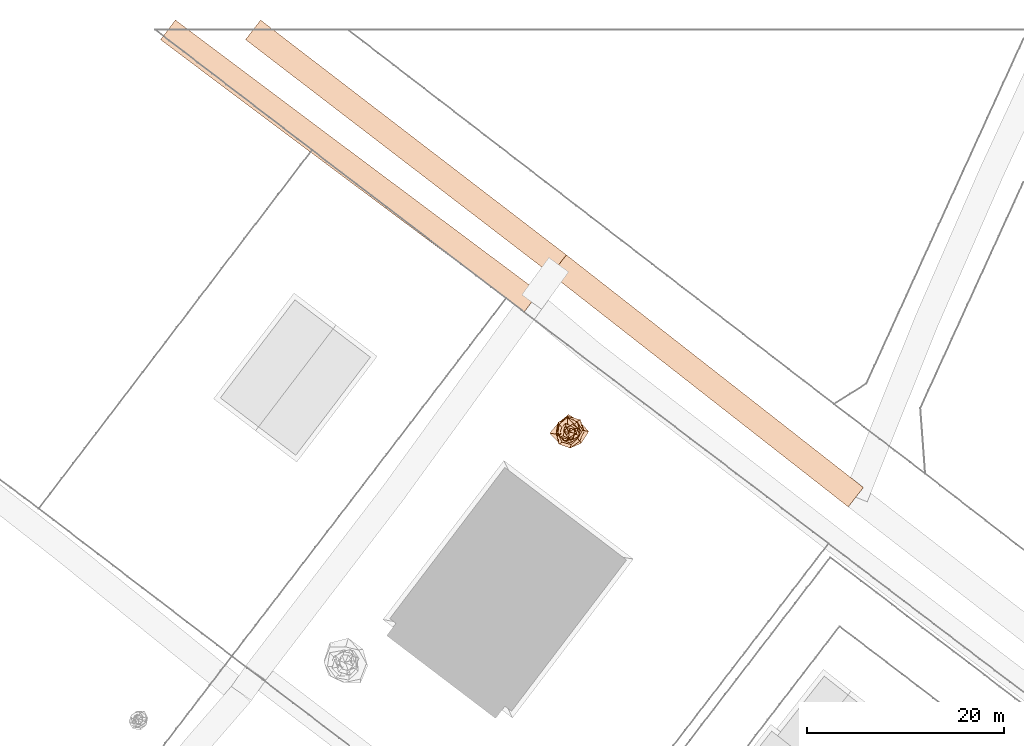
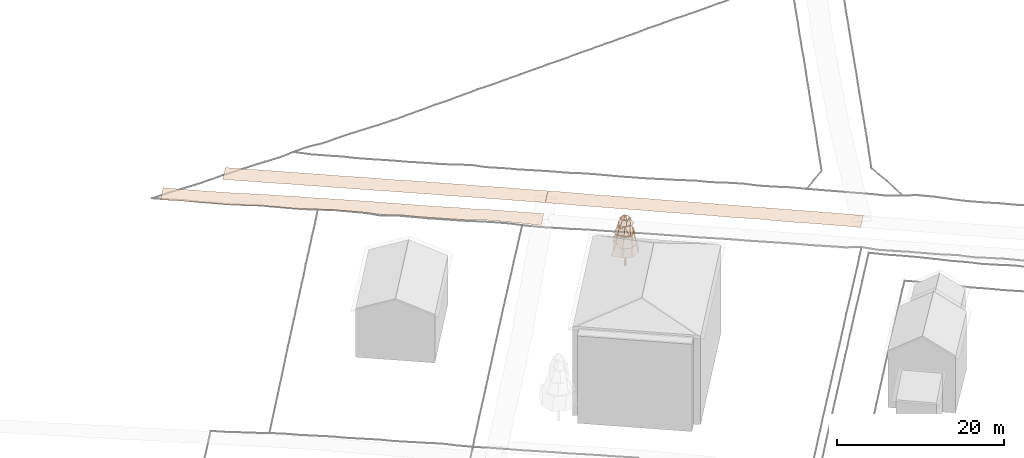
# Not in any storey, part 85 of 88: 4 geographic elements.
"""IFC4 model written with IfcOpenShell, lengths in metres."""

from ifc_helpers import new_model, si_unit, frame, origin_with_axes, place, context, subcontext, project, spatial, circle, extrude, faceted_brep, triangles, element, save


model = new_model("IFC4")

# Units and contexts
model_context = context("Model", 3, precision=1e-05, world=origin_with_axes())
body_context = subcontext(model_context, "Body", "Model", "MODEL_VIEW")
ifc_project = project(units=[si_unit("LENGTHUNIT", "METRE"), si_unit("AREAUNIT", "SQUARE_METRE"), si_unit("VOLUMEUNIT", "CUBIC_METRE"), si_unit("PLANEANGLEUNIT", "RADIAN")], contexts=[model_context])

# Sites
site_1_placement = place(None, origin_with_axes())
site_1 = spatial("IfcSite", under=ifc_project, at=site_1_placement, Name="CH907857693633", CompositionType="ELEMENT")
site_2_placement = place(None, origin_with_axes())
site_2 = spatial("IfcSite", under=site_1, at=site_2_placement, Name="Vegetation", CompositionType="ELEMENT")

# Geographic element
geographic_element_1_placement = place(None, frame((99.2710000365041, 189.19500338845, 8.87066650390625), z_axis=(0.0, 0.0, 1.0), x_axis=(1.0, 0.0, 0.0)))
element("IfcGeographicElement", 1, at=geographic_element_1_placement, inside=site_2, Name="Tree_einzelbaum", ObjectType="VEGETATION", PredefinedType="USERDEFINED", context=body_context, shape_type="Brep", body=[
    extrude(circle(Radius=0.15), origin_with_axes(), (0.0, 0.0, 1.0), 2.12445532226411),
    faceted_brep([(1.20939652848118, -1.1103342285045, 2.12445532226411), (0.0683971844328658, -1.60164918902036, 2.12445532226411), (-1.02150361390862, -1.1126405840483, 2.12445532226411), (-1.98497279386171, -0.084766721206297, 2.12445532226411), (-1.07976503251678, 0.991320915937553, 2.12445532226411), (-0.0771044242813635, 1.80554564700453, 2.12445532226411), (1.02901351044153, 1.12082050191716, 2.12445532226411), (1.96907565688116, 0.0840878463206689, 2.12445532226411), (1.3703106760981, 0.1968511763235, 3.73661023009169), (0.867407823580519, 1.15842809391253, 3.73661023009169), (-0.226442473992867, 1.57630015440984, 3.73661023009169), (-1.17817851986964, 0.882196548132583, 3.73661023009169), (-1.33827817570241, -0.192249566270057, 3.73661023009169), (-0.871082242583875, -1.16333530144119, 3.73661023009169), (0.187618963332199, -1.30604385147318, 3.73661023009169), (0.996576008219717, -0.746216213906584, 3.73661023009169), (1.96907565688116, 0.0840878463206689, 2.12445532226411), (1.02901351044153, 1.12082050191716, 2.12445532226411), (0.867407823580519, 1.15842809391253, 3.73661023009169), (1.3703106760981, 0.1968511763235, 3.73661023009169), (1.02901351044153, 1.12082050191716, 2.12445532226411), (-0.0771044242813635, 1.80554564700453, 2.12445532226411), (-0.226442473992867, 1.57630015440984, 3.73661023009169), (0.867407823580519, 1.15842809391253, 3.73661023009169), (-0.0771044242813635, 1.80554564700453, 2.12445532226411), (-1.07976503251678, 0.991320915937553, 2.12445532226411), (-1.17817851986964, 0.882196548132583, 3.73661023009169), (-0.226442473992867, 1.57630015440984, 3.73661023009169), (-1.07976503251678, 0.991320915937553, 2.12445532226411), (-1.98497279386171, -0.084766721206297, 2.12445532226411), (-1.33827817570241, -0.192249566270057, 3.73661023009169), (-1.17817851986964, 0.882196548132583, 3.73661023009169), (-1.98497279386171, -0.084766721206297, 2.12445532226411), (-1.02150361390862, -1.1126405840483, 2.12445532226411), (-0.871082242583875, -1.16333530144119, 3.73661023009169), (-1.33827817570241, -0.192249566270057, 3.73661023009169), (-1.02150361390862, -1.1126405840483, 2.12445532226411), (0.0683971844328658, -1.60164918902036, 2.12445532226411), (0.187618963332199, -1.30604385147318, 3.73661023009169), (-0.871082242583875, -1.16333530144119, 3.73661023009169), (0.0683971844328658, -1.60164918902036, 2.12445532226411), (1.20939652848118, -1.1103342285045, 2.12445532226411), (0.996576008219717, -0.746216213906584, 3.73661023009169), (0.187618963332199, -1.30604385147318, 3.73661023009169), (1.20939652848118, -1.1103342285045, 2.12445532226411), (1.96907565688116, 0.0840878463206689, 2.12445532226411), (1.3703106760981, 0.1968511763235, 3.73661023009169), (0.996576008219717, -0.746216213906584, 3.73661023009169)], [[[0, 1, 2, 3, 4, 5, 6, 7]], [[8, 9, 10, 11, 12, 13, 14, 15]], [[16, 17, 18, 19]], [[20, 21, 22, 23]], [[24, 25, 26, 27]], [[28, 29, 30, 31]], [[32, 33, 34, 35]], [[36, 37, 38, 39]], [[40, 41, 42, 43]], [[44, 45, 46, 47]]]),
    faceted_brep([(1.0405083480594, -0.924965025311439, 3.49478699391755), (0.0934177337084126, -1.58910150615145, 3.49478699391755), (-1.06201358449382, -1.19467652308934, 3.49478699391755), (-1.29062140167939, -0.0758711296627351, 3.49478699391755), (-1.14049709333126, 1.01385051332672, 3.49478699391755), (-0.0931995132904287, 1.58538942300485, 3.49478699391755), (1.13559699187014, 1.27745170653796, 3.49478699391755), (1.5061827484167, 0.0885432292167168, 3.49478699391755), (1.34692107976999, 0.215595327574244, 4.96601408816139), (0.78833671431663, 1.08880138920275, 4.96601408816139), (-0.16616739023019, 1.03812250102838, 4.96601408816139), (-0.893071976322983, 0.646620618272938, 4.96601408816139), (-1.15900187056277, -0.18551598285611, 4.96601408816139), (-0.722172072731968, -0.997418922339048, 4.96601408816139), (0.199919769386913, -1.24898881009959, 4.96601408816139), (0.86368834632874, -0.625345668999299, 4.96601408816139), (1.5061827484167, 0.0885432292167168, 3.49478699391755), (1.13559699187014, 1.27745170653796, 3.49478699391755), (0.78833671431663, 1.08880138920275, 4.96601408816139), (1.34692107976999, 0.215595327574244, 4.96601408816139), (1.13559699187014, 1.27745170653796, 3.49478699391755), (-0.0931995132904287, 1.58538942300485, 3.49478699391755), (-0.16616739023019, 1.03812250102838, 4.96601408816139), (0.78833671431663, 1.08880138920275, 4.96601408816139), (-0.0931995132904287, 1.58538942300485, 3.49478699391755), (-1.14049709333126, 1.01385051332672, 3.49478699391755), (-0.893071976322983, 0.646620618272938, 4.96601408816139), (-0.16616739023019, 1.03812250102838, 4.96601408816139), (-1.14049709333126, 1.01385051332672, 3.49478699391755), (-1.29062140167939, -0.0758711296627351, 3.49478699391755), (-1.15900187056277, -0.18551598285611, 4.96601408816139), (-0.893071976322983, 0.646620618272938, 4.96601408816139), (-1.29062140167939, -0.0758711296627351, 3.49478699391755), (-1.06201358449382, -1.19467652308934, 3.49478699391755), (-0.722172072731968, -0.997418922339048, 4.96601408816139), (-1.15900187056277, -0.18551598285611, 4.96601408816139), (-1.06201358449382, -1.19467652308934, 3.49478699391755), (0.0934177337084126, -1.58910150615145, 3.49478699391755), (0.199919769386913, -1.24898881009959, 4.96601408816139), (-0.722172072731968, -0.997418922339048, 4.96601408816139), (0.0934177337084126, -1.58910150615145, 3.49478699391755), (1.0405083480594, -0.924965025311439, 3.49478699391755), (0.86368834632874, -0.625345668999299, 4.96601408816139), (0.199919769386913, -1.24898881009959, 4.96601408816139), (1.0405083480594, -0.924965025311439, 3.49478699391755), (1.5061827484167, 0.0885432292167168, 3.49478699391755), (1.34692107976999, 0.215595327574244, 4.96601408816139), (0.86368834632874, -0.625345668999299, 4.96601408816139)], [[[0, 1, 2, 3, 4, 5, 6, 7]], [[8, 9, 10, 11, 12, 13, 14, 15]], [[16, 17, 18, 19]], [[20, 21, 22, 23]], [[24, 25, 26, 27]], [[28, 29, 30, 31]], [[32, 33, 34, 35]], [[36, 37, 38, 39]], [[40, 41, 42, 43]], [[44, 45, 46, 47]]]),
    faceted_brep([(0.817410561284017, -0.628692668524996, 4.74533002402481), (0.144202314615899, -1.10499025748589, 4.74533002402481), (-0.636262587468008, -0.827252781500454, 4.74533002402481), (-1.15211027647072, -0.150351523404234, 4.74533002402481), (-1.03933052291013, 0.799377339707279, 4.74533002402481), (-0.196087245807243, 1.50257294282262, 4.74533002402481), (0.822595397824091, 1.06951806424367, 4.74533002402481), (1.14867639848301, 0.149903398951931, 4.74533002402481), (1.01942656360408, 0.238442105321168, 6.24845616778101), (0.509289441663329, 0.820271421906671, 6.24845616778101), (-0.20481122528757, 0.875642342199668, 6.24845616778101), (-0.684000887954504, 0.424681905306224, 6.24845616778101), (-0.906390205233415, -0.212003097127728, 6.24845616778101), (-0.52099935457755, -0.839131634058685, 6.24845616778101), (0.183180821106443, -0.783164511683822, 6.24845616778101), (0.676571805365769, -0.420069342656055, 6.24845616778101), (1.14867639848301, 0.149903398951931, 4.74533002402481), (0.822595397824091, 1.06951806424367, 4.74533002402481), (0.509289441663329, 0.820271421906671, 6.24845616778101), (1.01942656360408, 0.238442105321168, 6.24845616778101), (0.822595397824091, 1.06951806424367, 4.74533002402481), (-0.196087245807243, 1.50257294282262, 4.74533002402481), (-0.20481122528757, 0.875642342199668, 6.24845616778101), (0.509289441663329, 0.820271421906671, 6.24845616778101), (-0.196087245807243, 1.50257294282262, 4.74533002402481), (-1.03933052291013, 0.799377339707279, 4.74533002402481), (-0.684000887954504, 0.424681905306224, 6.24845616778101), (-0.20481122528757, 0.875642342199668, 6.24845616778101), (-1.03933052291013, 0.799377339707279, 4.74533002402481), (-1.15211027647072, -0.150351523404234, 4.74533002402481), (-0.906390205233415, -0.212003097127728, 6.24845616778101), (-0.684000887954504, 0.424681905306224, 6.24845616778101), (-1.15211027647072, -0.150351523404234, 4.74533002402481), (-0.636262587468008, -0.827252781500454, 4.74533002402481), (-0.52099935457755, -0.839131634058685, 6.24845616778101), (-0.906390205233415, -0.212003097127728, 6.24845616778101), (-0.636262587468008, -0.827252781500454, 4.74533002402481), (0.144202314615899, -1.10499025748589, 4.74533002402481), (0.183180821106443, -0.783164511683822, 6.24845616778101), (-0.52099935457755, -0.839131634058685, 6.24845616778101), (0.144202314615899, -1.10499025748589, 4.74533002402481), (0.817410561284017, -0.628692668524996, 4.74533002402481), (0.676571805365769, -0.420069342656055, 6.24845616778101), (0.183180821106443, -0.783164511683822, 6.24845616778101), (0.817410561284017, -0.628692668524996, 4.74533002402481), (1.14867639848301, 0.149903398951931, 4.74533002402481), (1.01942656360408, 0.238442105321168, 6.24845616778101), (0.676571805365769, -0.420069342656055, 6.24845616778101)], [[[0, 1, 2, 3, 4, 5, 6, 7]], [[8, 9, 10, 11, 12, 13, 14, 15]], [[16, 17, 18, 19]], [[20, 21, 22, 23]], [[24, 25, 26, 27]], [[28, 29, 30, 31]], [[32, 33, 34, 35]], [[36, 37, 38, 39]], [[40, 41, 42, 43]], [[44, 45, 46, 47]]]),
    faceted_brep([(1.01370352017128, -0.357849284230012, 6.02298724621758), (0.35667247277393, -0.745890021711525, 6.02298724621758), (-0.262657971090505, -0.744048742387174, 6.02298724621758), (-0.99630320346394, -0.476415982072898, 6.02298724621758), (-0.845863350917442, 0.298599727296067, 6.02298724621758), (-0.432114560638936, 0.903658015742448, 6.02298724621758), (0.314485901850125, 0.890865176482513, 6.02298724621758), (0.923120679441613, 0.441421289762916, 6.02298724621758), (0.575191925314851, 0.349528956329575, 6.99643982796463), (0.1602936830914, 0.656850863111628, 6.99643982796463), (-0.305106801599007, 0.50208992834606, 6.99643982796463), (-0.515144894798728, 0.125712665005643, 6.99643982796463), (-0.603387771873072, -0.366662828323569, 6.99643982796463), (-0.147013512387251, -0.602431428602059, 6.99643982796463), (0.346294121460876, -0.569868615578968, 6.99643982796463), (0.554991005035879, -0.135436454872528, 6.99643982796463), (0.923120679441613, 0.441421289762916, 6.02298724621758), (0.314485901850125, 0.890865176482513, 6.02298724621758), (0.1602936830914, 0.656850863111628, 6.99643982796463), (0.575191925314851, 0.349528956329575, 6.99643982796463), (0.314485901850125, 0.890865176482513, 6.02298724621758), (-0.432114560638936, 0.903658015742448, 6.02298724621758), (-0.305106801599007, 0.50208992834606, 6.99643982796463), (0.1602936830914, 0.656850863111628, 6.99643982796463), (-0.432114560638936, 0.903658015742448, 6.02298724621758), (-0.845863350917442, 0.298599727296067, 6.02298724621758), (-0.515144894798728, 0.125712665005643, 6.99643982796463), (-0.305106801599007, 0.50208992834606, 6.99643982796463), (-0.845863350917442, 0.298599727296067, 6.02298724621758), (-0.99630320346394, -0.476415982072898, 6.02298724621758), (-0.603387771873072, -0.366662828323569, 6.99643982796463), (-0.515144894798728, 0.125712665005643, 6.99643982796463), (-0.99630320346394, -0.476415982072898, 6.02298724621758), (-0.262657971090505, -0.744048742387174, 6.02298724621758), (-0.147013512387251, -0.602431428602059, 6.99643982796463), (-0.603387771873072, -0.366662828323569, 6.99643982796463), (-0.262657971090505, -0.744048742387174, 6.02298724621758), (0.35667247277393, -0.745890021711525, 6.02298724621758), (0.346294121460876, -0.569868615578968, 6.99643982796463), (-0.147013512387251, -0.602431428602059, 6.99643982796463), (0.35667247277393, -0.745890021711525, 6.02298724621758), (1.01370352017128, -0.357849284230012, 6.02298724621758), (0.554991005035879, -0.135436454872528, 6.99643982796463), (0.346294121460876, -0.569868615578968, 6.99643982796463), (1.01370352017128, -0.357849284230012, 6.02298724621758), (0.923120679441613, 0.441421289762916, 6.02298724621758), (0.575191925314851, 0.349528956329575, 6.99643982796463), (0.554991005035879, -0.135436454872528, 6.99643982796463)], [[[0, 1, 2, 3, 4, 5, 6, 7]], [[8, 9, 10, 11, 12, 13, 14, 15]], [[16, 17, 18, 19]], [[20, 21, 22, 23]], [[24, 25, 26, 27]], [[28, 29, 30, 31]], [[32, 33, 34, 35]], [[36, 37, 38, 39]], [[40, 41, 42, 43]], [[44, 45, 46, 47]]]),
    faceted_brep([(0.745005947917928, -0.116144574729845, 6.85042194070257), (0.350267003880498, -0.479648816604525, 6.85042194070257), (-0.115459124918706, -0.740609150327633, 6.85042194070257), (-0.407509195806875, -0.297586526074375, 6.85042194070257), (-0.595620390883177, 0.092855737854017, 6.85042194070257), (-0.4411044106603, 0.604039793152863, 6.85042194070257), (0.0786425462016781, 0.50445029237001, 6.85042194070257), (0.596100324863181, 0.435306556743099, 6.85042194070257), (0.0485109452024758, 0.0434784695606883, 7.44898915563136), (0.00494622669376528, 0.0904128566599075, 7.44898915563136), (-0.0420772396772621, 0.0469475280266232, 7.44898915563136), (-0.0763130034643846, 0.00417486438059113, 7.44898915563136), (-0.0665131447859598, -0.0596131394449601, 7.44898915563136), (-0.00482342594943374, -0.0881681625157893, 7.44898915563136), (0.0434337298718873, -0.0484610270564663, 7.44898915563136), (0.0826772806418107, -0.00452303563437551, 7.44898915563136), (0.596100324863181, 0.435306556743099, 6.85042194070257), (0.0786425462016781, 0.50445029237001, 6.85042194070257), (0.00494622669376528, 0.0904128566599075, 7.44898915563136), (0.0485109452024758, 0.0434784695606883, 7.44898915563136), (0.0786425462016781, 0.50445029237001, 6.85042194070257), (-0.4411044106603, 0.604039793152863, 6.85042194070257), (-0.0420772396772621, 0.0469475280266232, 7.44898915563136), (0.00494622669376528, 0.0904128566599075, 7.44898915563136), (-0.4411044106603, 0.604039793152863, 6.85042194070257), (-0.595620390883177, 0.092855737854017, 6.85042194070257), (-0.0763130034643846, 0.00417486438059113, 7.44898915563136), (-0.0420772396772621, 0.0469475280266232, 7.44898915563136), (-0.595620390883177, 0.092855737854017, 6.85042194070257), (-0.407509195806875, -0.297586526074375, 6.85042194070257), (-0.0665131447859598, -0.0596131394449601, 7.44898915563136), (-0.0763130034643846, 0.00417486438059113, 7.44898915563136), (-0.407509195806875, -0.297586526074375, 6.85042194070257), (-0.115459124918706, -0.740609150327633, 6.85042194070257), (-0.00482342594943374, -0.0881681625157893, 7.44898915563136), (-0.0665131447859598, -0.0596131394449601, 7.44898915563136), (-0.115459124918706, -0.740609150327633, 6.85042194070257), (0.350267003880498, -0.479648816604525, 6.85042194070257), (0.0434337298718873, -0.0484610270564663, 7.44898915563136), (-0.00482342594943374, -0.0881681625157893, 7.44898915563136), (0.350267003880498, -0.479648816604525, 6.85042194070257), (0.745005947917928, -0.116144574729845, 6.85042194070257), (0.0826772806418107, -0.00452303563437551, 7.44898915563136), (0.0434337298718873, -0.0484610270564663, 7.44898915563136), (0.745005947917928, -0.116144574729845, 6.85042194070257), (0.596100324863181, 0.435306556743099, 6.85042194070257), (0.0485109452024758, 0.0434784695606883, 7.44898915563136), (0.0826772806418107, -0.00452303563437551, 7.44898915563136)], [[[0, 1, 2, 3, 4, 5, 6, 7]], [[8, 9, 10, 11, 12, 13, 14, 15]], [[16, 17, 18, 19]], [[20, 21, 22, 23]], [[24, 25, 26, 27]], [[28, 29, 30, 31]], [[32, 33, 34, 35]], [[36, 37, 38, 39]], [[40, 41, 42, 43]], [[44, 45, 46, 47]]]),
])

# Site
site_3_placement = place(None, origin_with_axes())
site_3 = spatial("IfcSite", under=site_1, at=site_3_placement, Name="Roads", CompositionType="ELEMENT")

# Geographic elements
geographic_element_2_placement = place(None, origin_with_axes())
element("IfcGeographicElement", 2, at=geographic_element_2_placement, inside=site_3, Name="Road_weg", ObjectType="ROAD", PredefinedType="USERDEFINED", context=body_context, shape_type="Tessellation", body=[
    triangles([(127.55342172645, 181.633773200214, 9.10871582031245), (125.968474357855, 182.874667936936, 9.15107421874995), (124.383526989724, 184.115562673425, 9.13850097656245), (122.798579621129, 185.356457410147, 9.1307495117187), (121.213632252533, 186.59735214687, 9.0926635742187), (119.628684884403, 187.838246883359, 9.09980468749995), (118.043737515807, 189.079141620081, 9.12763671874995), (116.458790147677, 190.32003635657, 9.0997436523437), (114.873842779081, 191.560931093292, 9.06306152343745), (113.288895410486, 192.801825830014, 9.08027343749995), (111.703948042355, 194.042720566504, 9.07514648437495), (110.11900067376, 195.283615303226, 9.05878906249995), (108.534053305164, 196.524510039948, 9.02802734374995), (106.949105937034, 197.765404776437, 9.0405395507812), (105.364158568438, 199.006299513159, 9.0262573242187), (103.779211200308, 200.247194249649, 9.0056274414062), (102.194263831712, 201.488088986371, 9.0036743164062), (100.609316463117, 202.728983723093, 8.9862182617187), (99.0243690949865, 203.969878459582, 9.0030639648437), (97.4394217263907, 205.210773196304, 9.01472167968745), (129.094578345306, 183.602233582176, 9.1286743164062), (127.50963097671, 184.843128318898, 9.1615112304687), (125.92468360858, 186.084023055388, 9.15986328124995), (124.339736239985, 187.32491779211, 9.1495483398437), (122.754788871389, 188.565812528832, 9.13081054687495), (121.169841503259, 189.806707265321, 9.12873535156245), (119.584894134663, 191.047602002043, 9.1192749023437), (117.999946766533, 192.288496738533, 9.09699707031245), (116.414999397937, 193.529391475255, 9.0994995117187), (114.830052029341, 194.770286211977, 9.08845214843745), (113.245104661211, 196.011180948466, 9.09235839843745), (111.660157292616, 197.252075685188, 9.05231933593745), (110.07520992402, 198.49297042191, 9.0515258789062), (108.49026255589, 199.7338651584, 9.0551879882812), (106.905315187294, 200.974759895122, 9.0252807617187), (105.320367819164, 202.215654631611, 9.03925781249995), (103.735420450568, 203.456549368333, 8.98054199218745), (102.150473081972, 204.697444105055, 9.00690917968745), (100.565525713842, 205.938338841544, 9.0271118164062), (98.9805783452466, 207.179233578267, 9.0005004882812)], [[1, 21, 2], [21, 22, 2], [2, 22, 3], [22, 23, 3], [3, 23, 4], [23, 24, 4], [4, 24, 5], [24, 25, 5], [5, 25, 6], [25, 26, 6], [6, 26, 7], [26, 27, 7], [7, 27, 8], [27, 28, 8], [8, 28, 9], [28, 29, 9], [9, 29, 10], [29, 30, 10], [10, 30, 11], [30, 31, 11], [11, 31, 12], [31, 32, 12], [12, 32, 13], [32, 33, 13], [13, 33, 14], [33, 34, 14], [14, 34, 15], [34, 35, 15], [15, 35, 16], [35, 36, 16], [16, 36, 17], [36, 37, 17], [17, 37, 18], [37, 38, 18], [18, 38, 19], [38, 39, 19], [19, 39, 20], [39, 40, 20]]),
])
geographic_element_3_placement = place(None, origin_with_axes())
element("IfcGeographicElement", 3, at=geographic_element_3_placement, inside=site_3, Name="Road_weg", ObjectType="ROAD", PredefinedType="USERDEFINED", context=body_context, shape_type="Tessellation", body=[
    triangles([(97.448676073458, 205.203597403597, 9.01472167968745), (95.8171404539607, 206.456491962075, 8.9992797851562), (94.1856048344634, 207.709386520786, 8.99885253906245), (92.5540692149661, 208.962281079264, 8.9958618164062), (90.9225335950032, 210.215175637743, 8.9920776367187), (89.2909979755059, 211.468070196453, 8.9886596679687), (87.6594623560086, 212.720964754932, 8.9547241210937), (86.0279267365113, 213.973859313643, 8.97443847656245), (84.396391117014, 215.226753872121, 8.95258789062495), (82.764855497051, 216.479648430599, 8.9548461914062), (81.1333198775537, 217.73254298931, 8.9239624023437), (79.5017842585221, 218.985437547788, 8.91462402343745), (77.8702486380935, 220.238332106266, 8.9171264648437), (76.2387130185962, 221.491226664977, 8.89362792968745), (74.6071773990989, 222.744121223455, 8.8908813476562), (72.9756417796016, 223.997015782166, 8.8868530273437), (71.3441061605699, 225.249910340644, 8.85468749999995), (69.7125705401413, 226.502804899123, 8.8519409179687), (68.081034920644, 227.755699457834, 8.8448608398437), (66.4494993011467, 229.008594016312, 8.83576660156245), (98.9713239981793, 207.186409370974, 9.0005004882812), (97.339788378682, 208.439303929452, 8.9976928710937), (95.7082527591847, 209.692198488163, 9.00959472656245), (94.0767171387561, 210.945093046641, 9.0078247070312), (92.4451815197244, 212.197987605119, 8.97382812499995), (90.8136459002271, 213.45088216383, 8.99689941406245), (89.1821102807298, 214.703776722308, 8.9748657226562), (87.5505746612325, 215.956671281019, 8.98469238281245), (85.9190390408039, 217.209565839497, 8.97651367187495), (84.2875034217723, 218.462460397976, 8.93330078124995), (82.655967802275, 219.715354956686, 8.93317871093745), (81.024432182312, 220.968249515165, 8.93537597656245), (79.3928965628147, 222.221144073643, 8.8942993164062), (77.7613609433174, 223.474038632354, 8.90607910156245), (76.1298253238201, 224.726933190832, 8.9008911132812), (74.4982897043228, 225.979827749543, 8.8806274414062), (72.8667540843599, 227.232722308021, 8.87006835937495), (71.2352184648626, 228.485616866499, 8.8780639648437), (69.6036828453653, 229.73851142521, 8.8332641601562), (67.972147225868, 230.991405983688, 8.8543823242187)], [[1, 21, 2], [21, 22, 2], [2, 22, 3], [22, 23, 3], [3, 23, 4], [23, 24, 4], [4, 24, 5], [24, 25, 5], [5, 25, 6], [25, 26, 6], [6, 26, 7], [26, 27, 7], [7, 27, 8], [27, 28, 8], [8, 28, 9], [28, 29, 9], [9, 29, 10], [29, 30, 10], [10, 30, 11], [30, 31, 11], [11, 31, 12], [31, 32, 12], [12, 32, 13], [32, 33, 13], [13, 33, 14], [33, 34, 14], [14, 34, 15], [34, 35, 15], [15, 35, 16], [35, 36, 16], [16, 36, 17], [36, 37, 17], [17, 37, 18], [37, 38, 18], [18, 38, 19], [38, 39, 19], [19, 39, 20], [39, 40, 20]]),
])
geographic_element_4_placement = place(None, origin_with_axes())
element("IfcGeographicElement", 4, at=geographic_element_4_placement, inside=site_3, Name="Road_weg", ObjectType="ROAD", PredefinedType="USERDEFINED", context=body_context, shape_type="Tessellation", body=[
    triangles([(59.3324467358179, 230.999742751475, 8.9036987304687), (60.9824337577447, 229.761368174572, 8.87507324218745), (62.6324207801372, 228.522993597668, 8.8443725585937), (64.282407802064, 227.284619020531, 8.84431152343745), (65.9323948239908, 226.046244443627, 8.8496215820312), (67.5823818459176, 224.807869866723, 8.89667968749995), (69.2323688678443, 223.569495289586, 8.94636230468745), (70.8823558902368, 222.331120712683, 8.9439819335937), (72.5313411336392, 221.093497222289, 8.97016601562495), (74.2213614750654, 219.830301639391, 8.95075683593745), (75.9123614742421, 218.566373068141, 8.9740112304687), (77.6033614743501, 217.302444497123, 8.97053222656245), (79.2943614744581, 216.038515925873, 8.9765747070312), (80.9853614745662, 214.774587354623, 8.9587524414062), (82.6763614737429, 213.510658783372, 8.94941406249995), (84.3673614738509, 212.246730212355, 8.9222534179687), (86.0583614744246, 210.982801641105, 8.9168823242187), (87.749361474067, 209.718873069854, 8.95332031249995), (89.440361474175, 208.454944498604, 8.9057739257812), (91.1313614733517, 207.191015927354, 8.97395019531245), (92.8223614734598, 205.927087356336, 8.94953613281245), (94.5133614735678, 204.663158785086, 8.9303100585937), (96.2043614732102, 203.399230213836, 8.95161132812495), (57.8317609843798, 229.000257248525, 8.8713500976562), (59.4817480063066, 227.761882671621, 8.89985351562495), (61.131735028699, 226.523508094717, 8.8941772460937), (62.7817220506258, 225.28513351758, 8.8840454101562), (64.4317090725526, 224.046758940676, 8.84052734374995), (66.0816960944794, 222.808384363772, 8.9288452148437), (67.7316831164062, 221.570009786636, 9.02790527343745), (69.3816701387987, 220.331635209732, 8.9931762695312), (71.0326589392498, 219.092509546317, 8.93854980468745), (72.7246385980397, 217.827847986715, 9.0603149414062), (74.4156385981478, 216.563919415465, 9.15314941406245), (76.1066385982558, 215.299990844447, 9.12592773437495), (77.7976385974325, 214.036062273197, 9.07490234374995), (79.4886385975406, 212.772133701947, 8.9358032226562), (81.1796385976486, 211.508205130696, 9.07783203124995), (82.8706385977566, 210.244276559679, 8.99458007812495), (84.561638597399, 208.980347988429, 8.9935424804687), (86.2526385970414, 207.716419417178, 8.99909667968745), (87.9436385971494, 206.452490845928, 9.03254394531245), (89.6346385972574, 205.188562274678, 9.1711547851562), (91.3256385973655, 203.92463370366, 9.11896972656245), (93.0166385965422, 202.66070513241, 9.0510375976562), (94.7076385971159, 201.39677656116, 8.9321411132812)], [[1, 24, 2], [24, 25, 2], [2, 25, 3], [25, 26, 3], [3, 26, 4], [26, 27, 4], [4, 27, 5], [27, 28, 5], [5, 28, 6], [28, 29, 6], [6, 29, 7], [29, 30, 7], [7, 30, 8], [30, 31, 8], [8, 31, 9], [31, 32, 9], [9, 32, 10], [32, 33, 10], [10, 33, 11], [33, 34, 11], [11, 34, 12], [34, 35, 12], [12, 35, 13], [35, 36, 13], [13, 36, 14], [36, 37, 14], [14, 37, 15], [37, 38, 15], [15, 38, 16], [38, 39, 16], [16, 39, 17], [39, 40, 17], [17, 40, 18], [40, 41, 18], [18, 41, 19], [41, 42, 19], [19, 42, 20], [42, 43, 20], [20, 43, 21], [43, 44, 21], [21, 44, 22], [44, 45, 22], [22, 45, 23], [45, 46, 23]]),
])

save(model, "model.ifc")
